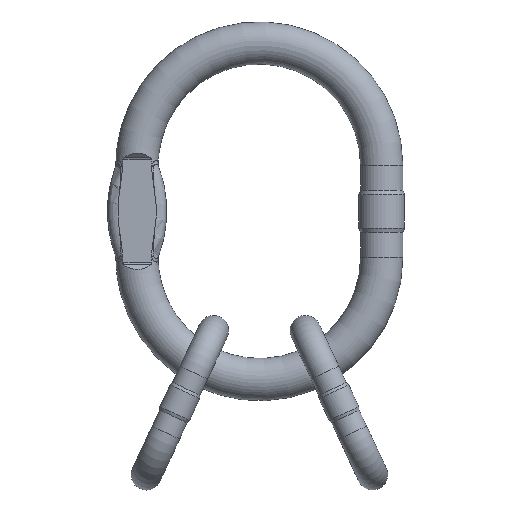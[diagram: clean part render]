
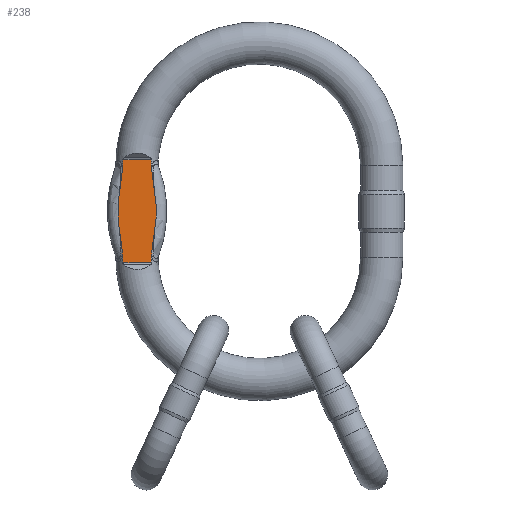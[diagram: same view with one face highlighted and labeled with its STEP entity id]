
A CAD part, top view. The second image highlights one B-rep face of the part: STEP entity #238.
In plain terms, the highlighted planar face has unit normal (0, 0, 1).
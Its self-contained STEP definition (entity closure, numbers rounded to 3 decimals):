
#95=PLANE('',#2275);
#238=ADVANCED_FACE('',(#401),#95,.T.);
#401=FACE_OUTER_BOUND('',#549,.T.);
#549=EDGE_LOOP('',(#1222,#1223,#1224,#1225,#1226,#1227,#1228,#1229,#1230,
#1231,#1232,#1233,#1234,#1235,#1236,#1237));
#634=LINE('',#3769,#682);
#635=LINE('',#3787,#683);
#636=LINE('',#3789,#684);
#637=LINE('',#3807,#685);
#644=LINE('',#4131,#692);
#645=LINE('',#4160,#693);
#682=VECTOR('',#2612,1.);
#683=VECTOR('',#2619,1.);
#684=VECTOR('',#2622,1.);
#685=VECTOR('',#2629,1.);
#692=VECTOR('',#2694,1.);
#693=VECTOR('',#2697,1.);
#762=CIRCLE('',#2245,74.246);
#763=CIRCLE('',#2246,58.754);
#769=CIRCLE('',#2253,58.754);
#770=CIRCLE('',#2254,74.246);
#782=CIRCLE('',#2273,63.932);
#783=CIRCLE('',#2274,63.932);
#1222=ORIENTED_EDGE('',*,*,#1866,.T.);
#1223=ORIENTED_EDGE('',*,*,#1884,.T.);
#1224=ORIENTED_EDGE('',*,*,#1861,.T.);
#1225=ORIENTED_EDGE('',*,*,#1831,.F.);
#1226=ORIENTED_EDGE('',*,*,#1885,.T.);
#1227=ORIENTED_EDGE('',*,*,#1886,.T.);
#1228=ORIENTED_EDGE('',*,*,#1887,.T.);
#1229=ORIENTED_EDGE('',*,*,#1826,.F.);
#1230=ORIENTED_EDGE('',*,*,#1839,.F.);
#1231=ORIENTED_EDGE('',*,*,#1888,.T.);
#1232=ORIENTED_EDGE('',*,*,#1834,.F.);
#1233=ORIENTED_EDGE('',*,*,#1825,.F.);
#1234=ORIENTED_EDGE('',*,*,#1889,.T.);
#1235=ORIENTED_EDGE('',*,*,#1890,.T.);
#1236=ORIENTED_EDGE('',*,*,#1891,.T.);
#1237=ORIENTED_EDGE('',*,*,#1820,.F.);
#1564=VERTEX_POINT('',#3770);
#1565=VERTEX_POINT('',#3771);
#1567=VERTEX_POINT('',#3780);
#1569=VERTEX_POINT('',#3786);
#1570=VERTEX_POINT('',#3790);
#1571=VERTEX_POINT('',#3791);
#1574=VERTEX_POINT('',#3801);
#1575=VERTEX_POINT('',#3806);
#1578=VERTEX_POINT('',#3836);
#1582=VERTEX_POINT('',#3873);
#1602=VERTEX_POINT('',#4054);
#1606=VERTEX_POINT('',#4088);
#1624=VERTEX_POINT('',#4138);
#1625=VERTEX_POINT('',#4140);
#1626=VERTEX_POINT('',#4167);
#1627=VERTEX_POINT('',#4169);
#1820=EDGE_CURVE('',#1564,#1565,#634,.T.);
#1825=EDGE_CURVE('',#1569,#1567,#635,.T.);
#1826=EDGE_CURVE('',#1570,#1571,#636,.T.);
#1831=EDGE_CURVE('',#1575,#1574,#637,.T.);
#1834=EDGE_CURVE('',#1567,#1578,#762,.T.);
#1839=EDGE_CURVE('',#1582,#1570,#763,.T.);
#1861=EDGE_CURVE('',#1602,#1574,#769,.T.);
#1866=EDGE_CURVE('',#1564,#1606,#770,.T.);
#1884=EDGE_CURVE('',#1606,#1602,#644,.T.);
#1885=EDGE_CURVE('',#1575,#1624,#2072,.T.);
#1886=EDGE_CURVE('',#1624,#1625,#782,.T.);
#1887=EDGE_CURVE('',#1625,#1571,#2073,.T.);
#1888=EDGE_CURVE('',#1582,#1578,#645,.T.);
#1889=EDGE_CURVE('',#1569,#1626,#2074,.T.);
#1890=EDGE_CURVE('',#1626,#1627,#783,.T.);
#1891=EDGE_CURVE('',#1627,#1565,#2075,.T.);
#2072=B_SPLINE_CURVE_WITH_KNOTS('',3,(#4132,#4133,#4134,#4135,#4136,#4137),
.UNSPECIFIED.,.F.,.F.,(4,2,4),(0.,0.5,1.),.UNSPECIFIED.);
#2073=B_SPLINE_CURVE_WITH_KNOTS('',3,(#4141,#4142,#4143,#4144,#4145,#4146,
#4147,#4148,#4149,#4150,#4151,#4152,#4153,#4154,#4155,#4156,#4157,#4158,
#4159),.UNSPECIFIED.,.F.,.F.,(4,3,3,3,3,3,4),(0.,0.009,0.025,
0.14,0.468,0.767,1.),.UNSPECIFIED.);
#2074=B_SPLINE_CURVE_WITH_KNOTS('',3,(#4161,#4162,#4163,#4164,#4165,#4166),
.UNSPECIFIED.,.F.,.F.,(4,2,4),(0.,0.5,1.),.UNSPECIFIED.);
#2075=B_SPLINE_CURVE_WITH_KNOTS('',3,(#4170,#4171,#4172,#4173,#4174,#4175,
#4176,#4177,#4178,#4179,#4180,#4181,#4182,#4183,#4184,#4185,#4186,#4187,
#4188),.UNSPECIFIED.,.F.,.F.,(4,3,3,3,3,3,4),(0.,0.009,0.025,
0.14,0.468,0.767,1.),.UNSPECIFIED.);
#2245=AXIS2_PLACEMENT_3D('',#3835,#2632,#2633);
#2246=AXIS2_PLACEMENT_3D('',#3874,#2634,#2635);
#2253=AXIS2_PLACEMENT_3D('',#4053,#2648,#2649);
#2254=AXIS2_PLACEMENT_3D('',#4089,#2650,#2651);
#2273=AXIS2_PLACEMENT_3D('',#4139,#2695,#2696);
#2274=AXIS2_PLACEMENT_3D('',#4168,#2698,#2699);
#2275=AXIS2_PLACEMENT_3D('',#4189,#2700,#2701);
#2612=DIRECTION('',(0.,1.,0.));
#2619=DIRECTION('',(0.,1.,0.));
#2622=DIRECTION('',(0.,-1.,0.));
#2629=DIRECTION('',(0.,-1.,0.));
#2632=DIRECTION('',(0.,0.,-1.));
#2633=DIRECTION('',(1.,0.,0.));
#2634=DIRECTION('',(0.,0.,1.));
#2635=DIRECTION('',(-1.,0.,0.));
#2648=DIRECTION('',(0.,0.,-1.));
#2649=DIRECTION('',(-1.,0.,0.));
#2650=DIRECTION('',(0.,0.,1.));
#2651=DIRECTION('',(1.,0.,0.));
#2694=DIRECTION('',(1.,0.,0.));
#2695=DIRECTION('',(0.,0.,1.));
#2696=DIRECTION('',(1.,0.,0.));
#2697=DIRECTION('',(-1.,0.,0.));
#2698=DIRECTION('',(0.,0.,1.));
#2699=DIRECTION('',(1.,0.,0.));
#2700=DIRECTION('',(0.,0.,1.));
#2701=DIRECTION('',(1.,0.,0.));
#3769=CARTESIAN_POINT('',(-74.246,25.,8.5));
#3770=CARTESIAN_POINT('',(-74.246,-25.,8.5));
#3771=CARTESIAN_POINT('',(-74.246,-24.335,8.5));
#3780=CARTESIAN_POINT('',(-74.246,25.,8.5));
#3786=CARTESIAN_POINT('',(-74.246,24.335,8.5));
#3787=CARTESIAN_POINT('',(-74.246,25.,8.5));
#3789=CARTESIAN_POINT('',(-58.754,25.,8.5));
#3790=CARTESIAN_POINT('',(-58.754,25.,8.5));
#3791=CARTESIAN_POINT('',(-58.754,24.335,8.5));
#3801=CARTESIAN_POINT('',(-58.754,-25.,8.5));
#3806=CARTESIAN_POINT('',(-58.754,-24.335,8.5));
#3807=CARTESIAN_POINT('',(-58.754,25.,8.5));
#3835=CARTESIAN_POINT('',(0.,25.,8.5));
#3836=CARTESIAN_POINT('',(-74.188,27.921,8.5));
#3873=CARTESIAN_POINT('',(-58.681,27.921,8.5));
#3874=CARTESIAN_POINT('',(0.,25.,8.5));
#4053=CARTESIAN_POINT('',(0.,-25.,8.5));
#4054=CARTESIAN_POINT('',(-58.681,-27.921,8.5));
#4088=CARTESIAN_POINT('',(-74.188,-27.921,8.5));
#4089=CARTESIAN_POINT('',(0.,-25.,8.5));
#4131=CARTESIAN_POINT('',(-78.,-27.921,8.5));
#4132=CARTESIAN_POINT('',(-58.754,-24.335,8.5));
#4133=CARTESIAN_POINT('',(-58.754,-22.073,8.5));
#4134=CARTESIAN_POINT('',(-58.328,-19.86,8.5));
#4135=CARTESIAN_POINT('',(-57.619,-15.418,8.5));
#4136=CARTESIAN_POINT('',(-57.278,-13.192,8.5));
#4137=CARTESIAN_POINT('',(-57.013,-10.96,8.5));
#4138=CARTESIAN_POINT('',(-57.013,-10.96,8.5));
#4139=CARTESIAN_POINT('',(-119.999,0.,8.5));
#4140=CARTESIAN_POINT('',(-57.013,10.96,8.5));
#4141=CARTESIAN_POINT('',(-57.013,10.96,8.5));
#4142=CARTESIAN_POINT('',(-57.018,11.,8.5));
#4143=CARTESIAN_POINT('',(-57.023,11.039,8.5));
#4144=CARTESIAN_POINT('',(-57.027,11.079,8.5));
#4145=CARTESIAN_POINT('',(-57.036,11.151,8.5));
#4146=CARTESIAN_POINT('',(-57.045,11.224,8.5));
#4147=CARTESIAN_POINT('',(-57.053,11.296,8.5));
#4148=CARTESIAN_POINT('',(-57.116,11.81,8.5));
#4149=CARTESIAN_POINT('',(-57.182,12.324,8.5));
#4150=CARTESIAN_POINT('',(-57.251,12.838,8.5));
#4151=CARTESIAN_POINT('',(-57.449,14.301,8.5));
#4152=CARTESIAN_POINT('',(-57.674,15.761,8.5));
#4153=CARTESIAN_POINT('',(-57.906,17.22,8.5));
#4154=CARTESIAN_POINT('',(-58.117,18.544,8.5));
#4155=CARTESIAN_POINT('',(-58.337,19.868,8.5));
#4156=CARTESIAN_POINT('',(-58.511,21.198,8.5));
#4157=CARTESIAN_POINT('',(-58.646,22.238,8.5));
#4158=CARTESIAN_POINT('',(-58.754,23.286,8.5));
#4159=CARTESIAN_POINT('',(-58.754,24.335,8.5));
#4160=CARTESIAN_POINT('',(-78.,27.921,8.5));
#4161=CARTESIAN_POINT('',(-74.246,24.335,8.5));
#4162=CARTESIAN_POINT('',(-74.246,22.077,8.5));
#4163=CARTESIAN_POINT('',(-74.672,19.862,8.5));
#4164=CARTESIAN_POINT('',(-75.381,15.418,8.5));
#4165=CARTESIAN_POINT('',(-75.722,13.191,8.5));
#4166=CARTESIAN_POINT('',(-75.987,10.96,8.5));
#4167=CARTESIAN_POINT('',(-75.987,10.96,8.5));
#4168=CARTESIAN_POINT('',(-13.001,0.,8.5));
#4169=CARTESIAN_POINT('',(-75.987,-10.96,8.5));
#4170=CARTESIAN_POINT('',(-75.987,-10.96,8.5));
#4171=CARTESIAN_POINT('',(-75.982,-11.,8.5));
#4172=CARTESIAN_POINT('',(-75.977,-11.039,8.5));
#4173=CARTESIAN_POINT('',(-75.973,-11.079,8.5));
#4174=CARTESIAN_POINT('',(-75.964,-11.151,8.5));
#4175=CARTESIAN_POINT('',(-75.955,-11.224,8.5));
#4176=CARTESIAN_POINT('',(-75.947,-11.296,8.5));
#4177=CARTESIAN_POINT('',(-75.884,-11.81,8.5));
#4178=CARTESIAN_POINT('',(-75.818,-12.324,8.5));
#4179=CARTESIAN_POINT('',(-75.749,-12.838,8.5));
#4180=CARTESIAN_POINT('',(-75.551,-14.301,8.5));
#4181=CARTESIAN_POINT('',(-75.326,-15.761,8.5));
#4182=CARTESIAN_POINT('',(-75.094,-17.22,8.5));
#4183=CARTESIAN_POINT('',(-74.883,-18.544,8.5));
#4184=CARTESIAN_POINT('',(-74.663,-19.868,8.5));
#4185=CARTESIAN_POINT('',(-74.489,-21.198,8.5));
#4186=CARTESIAN_POINT('',(-74.354,-22.238,8.5));
#4187=CARTESIAN_POINT('',(-74.246,-23.286,8.5));
#4188=CARTESIAN_POINT('',(-74.246,-24.335,8.5));
#4189=CARTESIAN_POINT('',(-78.,-31.625,8.5));
